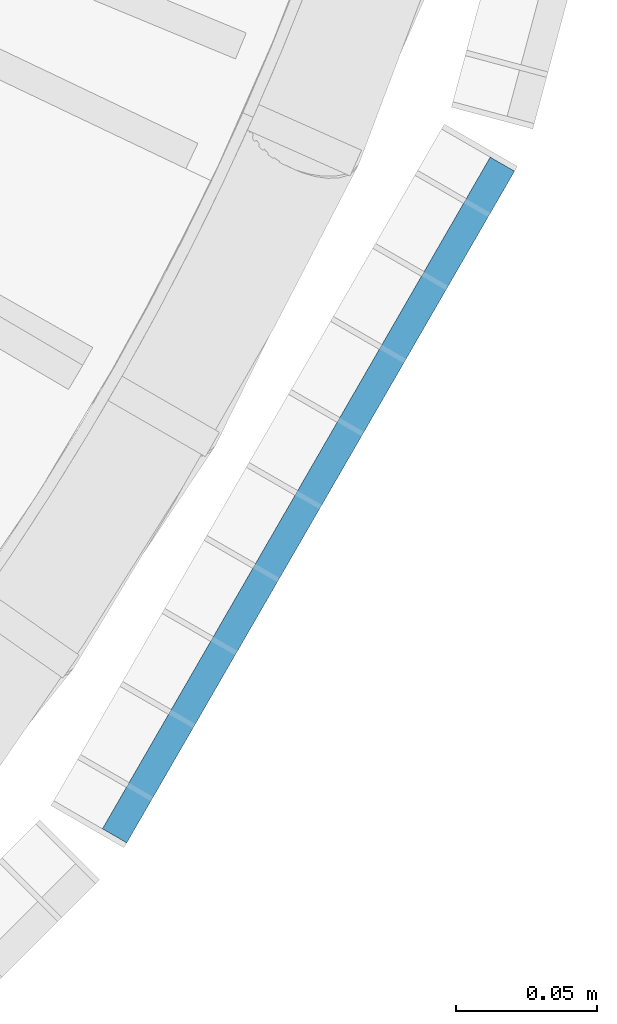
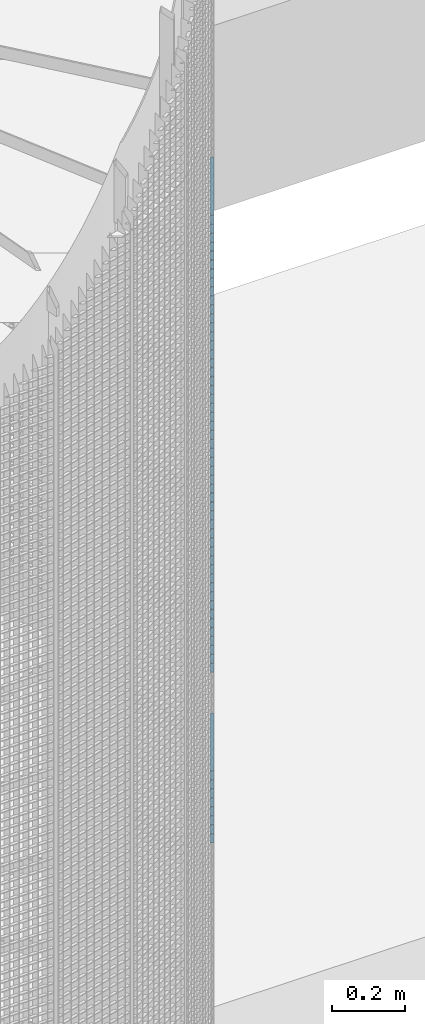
# One storey, part 235 of 1148: 61 beams, 1 element without a shape of its own.
"""IFC2X3 building model written with IfcOpenShell, lengths in millimetres."""

from ifc_helpers import new_model, si_unit, frame, origin_with_axes, origin_2d_with_axis, place, context, subcontext, project, spatial, rectangle, extrude, material, type_object, element, aggregate, save


model = new_model("IFC2X3")

# Units and contexts
model_context = context("Model", 3, precision=1e-05, world=origin_with_axes())
body_context = subcontext(model_context, "Body", "Model", "MODEL_VIEW")
ifc_project = project(units=[si_unit("LENGTHUNIT", "METRE", prefix="MILLI"), si_unit("AREAUNIT", "SQUARE_METRE"), si_unit("VOLUMEUNIT", "CUBIC_METRE"), si_unit("MASSUNIT", "GRAM", prefix="KILO"), si_unit("TIMEUNIT", "SECOND"), si_unit("PLANEANGLEUNIT", "RADIAN"), si_unit("SOLIDANGLEUNIT", "STERADIAN"), si_unit("THERMODYNAMICTEMPERATUREUNIT", "DEGREE_CELSIUS"), si_unit("LUMINOUSINTENSITYUNIT", "LUMEN")], contexts=[model_context])

# Site, building, storey
site_placement = place(None, origin_with_axes())
site = spatial("IfcSite", under=ifc_project, at=site_placement, Name="Undefined", CompositionType="ELEMENT")
building_placement = place(site_placement, origin_with_axes())
building = spatial("IfcBuilding", under=site, at=building_placement, Name="Undefined", CompositionType="ELEMENT")
storey_placement = place(building_placement, origin_with_axes())
storey = spatial("IfcBuildingStorey", under=building, at=storey_placement, Name="Undefined", CompositionType="ELEMENT", Elevation=0.0)

# Assembly, beams
assembly_placement = place(storey_placement, origin_with_axes())
assembly = element("IfcElementAssembly", 1, at=assembly_placement, inside=storey, Name="BORDURE", AssemblyPlace="NOTDEFINED", PredefinedType="NOTDEFINED")
ifc_material = material(Name="STEEL/S235JR")
beam_type = type_object("IfcBeamType", Name="PL2*10", PredefinedType="NOTDEFINED")
beam_1_placement = place(assembly_placement, frame((895.303964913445, -676.248044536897, 11670.0), z_axis=(0.866025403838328, -0.49999999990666, 0.0), x_axis=(0.49999999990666, 0.866025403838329, 0.0)))
beam_1 = element("IfcBeam", 2, at=beam_1_placement, type_object=beam_type, material=ifc_material, Name="ENTRETOISE", context=body_context, shape_type="SweptSolid", body=[
    extrude(rectangle(XDim=2.0, YDim=10.0, at=origin_2d_with_axis()), frame((275.999999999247, 9.09494701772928e-13, 1.53210777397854e-14), z_axis=(-1.0, 0.0, 0.0), x_axis=(0.0, -1.0, 0.0)), (0.0, 0.0, 1.0), 276.0),
])
beam_2_placement = place(assembly_placement, frame((895.303964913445, -676.248044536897, 11640.0), z_axis=(0.866025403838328, -0.49999999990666, 0.0), x_axis=(0.49999999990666, 0.866025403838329, 0.0)))
beam_2 = element("IfcBeam", 3, at=beam_2_placement, type_object=beam_type, material=ifc_material, Name="ENTRETOISE", context=body_context, shape_type="SweptSolid", body=[
    extrude(rectangle(XDim=2.0, YDim=10.0, at=origin_2d_with_axis()), frame((275.999999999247, 9.09494701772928e-13, 1.53210777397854e-14), z_axis=(-1.0, 0.0, 0.0), x_axis=(0.0, -1.0, 0.0)), (0.0, 0.0, 1.0), 276.0),
])
beam_3_placement = place(assembly_placement, frame((895.303964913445, -676.248044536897, 11610.0), z_axis=(0.866025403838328, -0.49999999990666, 0.0), x_axis=(0.49999999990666, 0.866025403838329, 0.0)))
beam_3 = element("IfcBeam", 4, at=beam_3_placement, type_object=beam_type, material=ifc_material, Name="ENTRETOISE", context=body_context, shape_type="SweptSolid", body=[
    extrude(rectangle(XDim=2.0, YDim=10.0, at=origin_2d_with_axis()), frame((275.999999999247, 9.09494701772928e-13, 1.53210777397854e-14), z_axis=(-1.0, 0.0, 0.0), x_axis=(0.0, -1.0, 0.0)), (0.0, 0.0, 1.0), 276.0),
])
beam_4_placement = place(assembly_placement, frame((895.303964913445, -676.248044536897, 11580.0), z_axis=(0.866025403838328, -0.49999999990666, 0.0), x_axis=(0.49999999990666, 0.866025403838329, 0.0)))
beam_4 = element("IfcBeam", 5, at=beam_4_placement, type_object=beam_type, material=ifc_material, Name="ENTRETOISE", context=body_context, shape_type="SweptSolid", body=[
    extrude(rectangle(XDim=2.0, YDim=10.0, at=origin_2d_with_axis()), frame((275.999999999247, 9.09494701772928e-13, 1.53210777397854e-14), z_axis=(-1.0, 0.0, 0.0), x_axis=(0.0, -1.0, 0.0)), (0.0, 0.0, 1.0), 276.0),
])
beam_5_placement = place(assembly_placement, frame((895.303964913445, -676.248044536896, 11550.0), z_axis=(0.866025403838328, -0.49999999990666, 0.0), x_axis=(0.49999999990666, 0.866025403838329, 0.0)))
beam_5 = element("IfcBeam", 6, at=beam_5_placement, type_object=beam_type, material=ifc_material, Name="ENTRETOISE", context=body_context, shape_type="SweptSolid", body=[
    extrude(rectangle(XDim=2.0, YDim=10.0, at=origin_2d_with_axis()), frame((275.999999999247, 9.09494701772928e-13, 1.53210777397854e-14), z_axis=(-1.0, 0.0, 0.0), x_axis=(0.0, -1.0, 0.0)), (0.0, 0.0, 1.0), 276.0),
])
beam_6_placement = place(assembly_placement, frame((895.303964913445, -676.248044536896, 11520.0), z_axis=(0.866025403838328, -0.49999999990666, 0.0), x_axis=(0.49999999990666, 0.866025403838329, 0.0)))
beam_6 = element("IfcBeam", 7, at=beam_6_placement, type_object=beam_type, material=ifc_material, Name="ENTRETOISE", context=body_context, shape_type="SweptSolid", body=[
    extrude(rectangle(XDim=2.0, YDim=10.0, at=origin_2d_with_axis()), frame((275.999999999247, 9.09494701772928e-13, 1.53210777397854e-14), z_axis=(-1.0, 0.0, 0.0), x_axis=(0.0, -1.0, 0.0)), (0.0, 0.0, 1.0), 276.0),
])
beam_7_placement = place(assembly_placement, frame((895.303964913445, -676.248044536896, 11490.0), z_axis=(0.866025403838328, -0.49999999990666, 0.0), x_axis=(0.49999999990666, 0.866025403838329, 0.0)))
beam_7 = element("IfcBeam", 8, at=beam_7_placement, type_object=beam_type, material=ifc_material, Name="ENTRETOISE", context=body_context, shape_type="SweptSolid", body=[
    extrude(rectangle(XDim=2.0, YDim=10.0, at=origin_2d_with_axis()), frame((275.999999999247, 9.09494701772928e-13, 1.53210777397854e-14), z_axis=(-1.0, 0.0, 0.0), x_axis=(0.0, -1.0, 0.0)), (0.0, 0.0, 1.0), 276.0),
])
beam_8_placement = place(assembly_placement, frame((895.303964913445, -676.248044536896, 11460.0), z_axis=(0.866025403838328, -0.49999999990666, 0.0), x_axis=(0.49999999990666, 0.866025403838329, 0.0)))
beam_8 = element("IfcBeam", 9, at=beam_8_placement, type_object=beam_type, material=ifc_material, Name="ENTRETOISE", context=body_context, shape_type="SweptSolid", body=[
    extrude(rectangle(XDim=2.0, YDim=10.0, at=origin_2d_with_axis()), frame((275.999999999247, 9.09494701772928e-13, 1.53210777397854e-14), z_axis=(-1.0, 0.0, 0.0), x_axis=(0.0, -1.0, 0.0)), (0.0, 0.0, 1.0), 276.0),
])
beam_9_placement = place(assembly_placement, frame((895.303964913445, -676.248044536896, 11430.0), z_axis=(0.866025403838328, -0.49999999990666, 0.0), x_axis=(0.49999999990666, 0.866025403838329, 0.0)))
beam_9 = element("IfcBeam", 10, at=beam_9_placement, type_object=beam_type, material=ifc_material, Name="ENTRETOISE", context=body_context, shape_type="SweptSolid", body=[
    extrude(rectangle(XDim=2.0, YDim=10.0, at=origin_2d_with_axis()), frame((275.999999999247, 9.09494701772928e-13, 1.53210777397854e-14), z_axis=(-1.0, 0.0, 0.0), x_axis=(0.0, -1.0, 0.0)), (0.0, 0.0, 1.0), 276.0),
])
beam_10_placement = place(assembly_placement, frame((895.303964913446, -676.248044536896, 11400.0), z_axis=(0.866025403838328, -0.49999999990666, 0.0), x_axis=(0.49999999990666, 0.866025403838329, 0.0)))
beam_10 = element("IfcBeam", 11, at=beam_10_placement, type_object=beam_type, material=ifc_material, Name="ENTRETOISE", context=body_context, shape_type="SweptSolid", body=[
    extrude(rectangle(XDim=2.0, YDim=10.0, at=origin_2d_with_axis()), frame((275.999999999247, 9.09494701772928e-13, 1.53210777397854e-14), z_axis=(-1.0, 0.0, 0.0), x_axis=(0.0, -1.0, 0.0)), (0.0, 0.0, 1.0), 276.0),
])
beam_11_placement = place(assembly_placement, frame((895.303964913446, -676.248044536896, 11370.0), z_axis=(0.866025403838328, -0.49999999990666, 0.0), x_axis=(0.49999999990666, 0.866025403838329, 0.0)))
beam_11 = element("IfcBeam", 12, at=beam_11_placement, type_object=beam_type, material=ifc_material, Name="ENTRETOISE", context=body_context, shape_type="SweptSolid", body=[
    extrude(rectangle(XDim=2.0, YDim=10.0, at=origin_2d_with_axis()), frame((275.999999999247, 9.09494701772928e-13, 1.53210777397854e-14), z_axis=(-1.0, 0.0, 0.0), x_axis=(0.0, -1.0, 0.0)), (0.0, 0.0, 1.0), 276.0),
])
beam_12_placement = place(assembly_placement, frame((895.303964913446, -676.248044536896, 11340.0), z_axis=(0.866025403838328, -0.49999999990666, 0.0), x_axis=(0.49999999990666, 0.866025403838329, 0.0)))
beam_12 = element("IfcBeam", 13, at=beam_12_placement, type_object=beam_type, material=ifc_material, Name="ENTRETOISE", context=body_context, shape_type="SweptSolid", body=[
    extrude(rectangle(XDim=2.0, YDim=10.0, at=origin_2d_with_axis()), frame((275.999999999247, 9.09494701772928e-13, 1.53210777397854e-14), z_axis=(-1.0, 0.0, 0.0), x_axis=(0.0, -1.0, 0.0)), (0.0, 0.0, 1.0), 276.0),
])
beam_13_placement = place(assembly_placement, frame((895.303964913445, -676.248044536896, 11310.0), z_axis=(0.866025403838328, -0.49999999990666, 0.0), x_axis=(0.49999999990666, 0.866025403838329, 0.0)))
beam_13 = element("IfcBeam", 14, at=beam_13_placement, type_object=beam_type, material=ifc_material, Name="ENTRETOISE", context=body_context, shape_type="SweptSolid", body=[
    extrude(rectangle(XDim=2.0, YDim=10.0, at=origin_2d_with_axis()), frame((275.999999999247, 9.09494701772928e-13, 1.53210777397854e-14), z_axis=(-1.0, 0.0, 0.0), x_axis=(0.0, -1.0, 0.0)), (0.0, 0.0, 1.0), 276.0),
])
beam_14_placement = place(assembly_placement, frame((895.303964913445, -676.248044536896, 11280.0), z_axis=(0.866025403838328, -0.49999999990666, 0.0), x_axis=(0.49999999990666, 0.866025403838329, 0.0)))
beam_14 = element("IfcBeam", 15, at=beam_14_placement, type_object=beam_type, material=ifc_material, Name="ENTRETOISE", context=body_context, shape_type="SweptSolid", body=[
    extrude(rectangle(XDim=2.0, YDim=10.0, at=origin_2d_with_axis()), frame((275.999999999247, 9.09494701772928e-13, 1.53210777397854e-14), z_axis=(-1.0, 0.0, 0.0), x_axis=(0.0, -1.0, 0.0)), (0.0, 0.0, 1.0), 276.0),
])
beam_15_placement = place(assembly_placement, frame((895.303964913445, -676.248044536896, 11250.0), z_axis=(0.866025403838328, -0.49999999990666, 0.0), x_axis=(0.49999999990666, 0.866025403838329, 0.0)))
beam_15 = element("IfcBeam", 16, at=beam_15_placement, type_object=beam_type, material=ifc_material, Name="ENTRETOISE", context=body_context, shape_type="SweptSolid", body=[
    extrude(rectangle(XDim=2.0, YDim=10.0, at=origin_2d_with_axis()), frame((275.999999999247, 9.09494701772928e-13, 1.53210777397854e-14), z_axis=(-1.0, 0.0, 0.0), x_axis=(0.0, -1.0, 0.0)), (0.0, 0.0, 1.0), 276.0),
])
beam_16_placement = place(assembly_placement, frame((895.303964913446, -676.248044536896, 11220.0), z_axis=(0.866025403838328, -0.49999999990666, 0.0), x_axis=(0.49999999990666, 0.866025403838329, 0.0)))
beam_16 = element("IfcBeam", 17, at=beam_16_placement, type_object=beam_type, material=ifc_material, Name="ENTRETOISE", context=body_context, shape_type="SweptSolid", body=[
    extrude(rectangle(XDim=2.0, YDim=10.0, at=origin_2d_with_axis()), frame((275.999999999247, 9.09494701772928e-13, 1.53210777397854e-14), z_axis=(-1.0, 0.0, 0.0), x_axis=(0.0, -1.0, 0.0)), (0.0, 0.0, 1.0), 276.0),
])
beam_17_placement = place(assembly_placement, frame((895.303964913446, -676.248044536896, 11190.0), z_axis=(0.866025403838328, -0.49999999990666, 0.0), x_axis=(0.49999999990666, 0.866025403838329, 0.0)))
beam_17 = element("IfcBeam", 18, at=beam_17_placement, type_object=beam_type, material=ifc_material, Name="ENTRETOISE", context=body_context, shape_type="SweptSolid", body=[
    extrude(rectangle(XDim=2.0, YDim=10.0, at=origin_2d_with_axis()), frame((275.999999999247, 9.09494701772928e-13, 1.53210777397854e-14), z_axis=(-1.0, 0.0, 0.0), x_axis=(0.0, -1.0, 0.0)), (0.0, 0.0, 1.0), 276.0),
])
beam_18_placement = place(assembly_placement, frame((895.303964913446, -676.248044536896, 11160.0), z_axis=(0.866025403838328, -0.49999999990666, 0.0), x_axis=(0.49999999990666, 0.866025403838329, 0.0)))
beam_18 = element("IfcBeam", 19, at=beam_18_placement, type_object=beam_type, material=ifc_material, Name="ENTRETOISE", context=body_context, shape_type="SweptSolid", body=[
    extrude(rectangle(XDim=2.0, YDim=10.0, at=origin_2d_with_axis()), frame((275.999999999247, 9.09494701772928e-13, 1.53210777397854e-14), z_axis=(-1.0, 0.0, 0.0), x_axis=(0.0, -1.0, 0.0)), (0.0, 0.0, 1.0), 276.0),
])
beam_19_placement = place(assembly_placement, frame((895.303964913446, -676.248044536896, 11130.0), z_axis=(0.866025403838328, -0.49999999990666, 0.0), x_axis=(0.49999999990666, 0.866025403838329, 0.0)))
beam_19 = element("IfcBeam", 20, at=beam_19_placement, type_object=beam_type, material=ifc_material, Name="ENTRETOISE", context=body_context, shape_type="SweptSolid", body=[
    extrude(rectangle(XDim=2.0, YDim=10.0, at=origin_2d_with_axis()), frame((275.999999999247, 9.09494701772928e-13, 1.53210777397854e-14), z_axis=(-1.0, 0.0, 0.0), x_axis=(0.0, -1.0, 0.0)), (0.0, 0.0, 1.0), 276.0),
])
beam_20_placement = place(assembly_placement, frame((895.303964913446, -676.248044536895, 11100.0), z_axis=(0.866025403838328, -0.49999999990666, 0.0), x_axis=(0.49999999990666, 0.866025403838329, 0.0)))
beam_20 = element("IfcBeam", 21, at=beam_20_placement, type_object=beam_type, material=ifc_material, Name="ENTRETOISE", context=body_context, shape_type="SweptSolid", body=[
    extrude(rectangle(XDim=2.0, YDim=10.0, at=origin_2d_with_axis()), frame((275.999999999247, 9.09494701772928e-13, 1.53210777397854e-14), z_axis=(-1.0, 0.0, 0.0), x_axis=(0.0, -1.0, 0.0)), (0.0, 0.0, 1.0), 276.0),
])
beam_21_placement = place(assembly_placement, frame((895.303964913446, -676.248044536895, 11070.0), z_axis=(0.866025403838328, -0.49999999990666, 0.0), x_axis=(0.49999999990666, 0.866025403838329, 0.0)))
beam_21 = element("IfcBeam", 22, at=beam_21_placement, type_object=beam_type, material=ifc_material, Name="ENTRETOISE", context=body_context, shape_type="SweptSolid", body=[
    extrude(rectangle(XDim=2.0, YDim=10.0, at=origin_2d_with_axis()), frame((275.999999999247, 9.09494701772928e-13, 1.53210777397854e-14), z_axis=(-1.0, 0.0, 0.0), x_axis=(0.0, -1.0, 0.0)), (0.0, 0.0, 1.0), 276.0),
])
beam_22_placement = place(assembly_placement, frame((895.303964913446, -676.248044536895, 11040.0), z_axis=(0.866025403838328, -0.49999999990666, 0.0), x_axis=(0.49999999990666, 0.866025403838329, 0.0)))
beam_22 = element("IfcBeam", 23, at=beam_22_placement, type_object=beam_type, material=ifc_material, Name="ENTRETOISE", context=body_context, shape_type="SweptSolid", body=[
    extrude(rectangle(XDim=2.0, YDim=10.0, at=origin_2d_with_axis()), frame((275.999999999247, 9.09494701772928e-13, 1.53210777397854e-14), z_axis=(-1.0, 0.0, 0.0), x_axis=(0.0, -1.0, 0.0)), (0.0, 0.0, 1.0), 276.0),
])
beam_23_placement = place(assembly_placement, frame((895.303964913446, -676.248044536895, 11010.0), z_axis=(0.866025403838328, -0.49999999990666, 0.0), x_axis=(0.49999999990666, 0.866025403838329, 0.0)))
beam_23 = element("IfcBeam", 24, at=beam_23_placement, type_object=beam_type, material=ifc_material, Name="ENTRETOISE", context=body_context, shape_type="SweptSolid", body=[
    extrude(rectangle(XDim=2.0, YDim=10.0, at=origin_2d_with_axis()), frame((275.999999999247, 9.09494701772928e-13, 1.53210777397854e-14), z_axis=(-1.0, 0.0, 0.0), x_axis=(0.0, -1.0, 0.0)), (0.0, 0.0, 1.0), 276.0),
])
beam_24_placement = place(assembly_placement, frame((895.303964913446, -676.248044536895, 10980.0), z_axis=(0.866025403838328, -0.49999999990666, 0.0), x_axis=(0.49999999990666, 0.866025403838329, 0.0)))
beam_24 = element("IfcBeam", 25, at=beam_24_placement, type_object=beam_type, material=ifc_material, Name="ENTRETOISE", context=body_context, shape_type="SweptSolid", body=[
    extrude(rectangle(XDim=2.0, YDim=10.0, at=origin_2d_with_axis()), frame((275.999999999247, 9.09494701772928e-13, 1.53210777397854e-14), z_axis=(-1.0, 0.0, 0.0), x_axis=(0.0, -1.0, 0.0)), (0.0, 0.0, 1.0), 276.0),
])
beam_25_placement = place(assembly_placement, frame((895.303964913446, -676.248044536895, 10950.0), z_axis=(0.866025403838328, -0.49999999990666, 0.0), x_axis=(0.49999999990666, 0.866025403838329, 0.0)))
beam_25 = element("IfcBeam", 26, at=beam_25_placement, type_object=beam_type, material=ifc_material, Name="ENTRETOISE", context=body_context, shape_type="SweptSolid", body=[
    extrude(rectangle(XDim=2.0, YDim=10.0, at=origin_2d_with_axis()), frame((275.999999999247, 9.09494701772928e-13, 1.53210777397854e-14), z_axis=(-1.0, 0.0, 0.0), x_axis=(0.0, -1.0, 0.0)), (0.0, 0.0, 1.0), 276.0),
])
beam_26_placement = place(assembly_placement, frame((895.303964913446, -676.248044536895, 10920.0), z_axis=(0.866025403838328, -0.49999999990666, 0.0), x_axis=(0.49999999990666, 0.866025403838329, 0.0)))
beam_26 = element("IfcBeam", 27, at=beam_26_placement, type_object=beam_type, material=ifc_material, Name="ENTRETOISE", context=body_context, shape_type="SweptSolid", body=[
    extrude(rectangle(XDim=2.0, YDim=10.0, at=origin_2d_with_axis()), frame((275.999999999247, 9.09494701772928e-13, 1.53210777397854e-14), z_axis=(-1.0, 0.0, 0.0), x_axis=(0.0, -1.0, 0.0)), (0.0, 0.0, 1.0), 276.0),
])
beam_27_placement = place(assembly_placement, frame((895.303964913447, -676.248044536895, 10890.0), z_axis=(0.866025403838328, -0.49999999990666, 0.0), x_axis=(0.49999999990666, 0.866025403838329, 0.0)))
beam_27 = element("IfcBeam", 28, at=beam_27_placement, type_object=beam_type, material=ifc_material, Name="ENTRETOISE", context=body_context, shape_type="SweptSolid", body=[
    extrude(rectangle(XDim=2.0, YDim=10.0, at=origin_2d_with_axis()), frame((275.999999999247, 9.09494701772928e-13, 1.53210777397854e-14), z_axis=(-1.0, 0.0, 0.0), x_axis=(0.0, -1.0, 0.0)), (0.0, 0.0, 1.0), 276.0),
])
beam_28_placement = place(assembly_placement, frame((895.303964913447, -676.248044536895, 10860.0), z_axis=(0.866025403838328, -0.49999999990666, 0.0), x_axis=(0.49999999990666, 0.866025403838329, 0.0)))
beam_28 = element("IfcBeam", 29, at=beam_28_placement, type_object=beam_type, material=ifc_material, Name="ENTRETOISE", context=body_context, shape_type="SweptSolid", body=[
    extrude(rectangle(XDim=2.0, YDim=10.0, at=origin_2d_with_axis()), frame((275.999999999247, 9.09494701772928e-13, 1.53210777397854e-14), z_axis=(-1.0, 0.0, 0.0), x_axis=(0.0, -1.0, 0.0)), (0.0, 0.0, 1.0), 276.0),
])
beam_29_placement = place(assembly_placement, frame((895.303964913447, -676.248044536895, 10830.0), z_axis=(0.866025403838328, -0.49999999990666, 0.0), x_axis=(0.49999999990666, 0.866025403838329, 0.0)))
beam_29 = element("IfcBeam", 30, at=beam_29_placement, type_object=beam_type, material=ifc_material, Name="ENTRETOISE", context=body_context, shape_type="SweptSolid", body=[
    extrude(rectangle(XDim=2.0, YDim=10.0, at=origin_2d_with_axis()), frame((275.999999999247, 9.09494701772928e-13, 1.53210777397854e-14), z_axis=(-1.0, 0.0, 0.0), x_axis=(0.0, -1.0, 0.0)), (0.0, 0.0, 1.0), 276.0),
])
beam_30_placement = place(assembly_placement, frame((895.303964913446, -676.248044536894, 10800.0), z_axis=(0.866025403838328, -0.49999999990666, 0.0), x_axis=(0.49999999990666, 0.866025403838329, 0.0)))
beam_30 = element("IfcBeam", 31, at=beam_30_placement, type_object=beam_type, material=ifc_material, Name="ENTRETOISE", context=body_context, shape_type="SweptSolid", body=[
    extrude(rectangle(XDim=2.0, YDim=10.0, at=origin_2d_with_axis()), frame((275.999999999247, 9.09494701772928e-13, 1.53210777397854e-14), z_axis=(-1.0, 0.0, 0.0), x_axis=(0.0, -1.0, 0.0)), (0.0, 0.0, 1.0), 276.0),
])
beam_31_placement = place(assembly_placement, frame((895.303964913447, -676.248044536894, 10770.0), z_axis=(0.866025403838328, -0.49999999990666, 0.0), x_axis=(0.49999999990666, 0.866025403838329, 0.0)))
beam_31 = element("IfcBeam", 32, at=beam_31_placement, type_object=beam_type, material=ifc_material, Name="ENTRETOISE", context=body_context, shape_type="SweptSolid", body=[
    extrude(rectangle(XDim=2.0, YDim=10.0, at=origin_2d_with_axis()), frame((275.999999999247, 9.09494701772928e-13, 1.53210777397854e-14), z_axis=(-1.0, 0.0, 0.0), x_axis=(0.0, -1.0, 0.0)), (0.0, 0.0, 1.0), 276.0),
])
beam_32_placement = place(assembly_placement, frame((895.303964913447, -676.248044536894, 10740.0), z_axis=(0.866025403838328, -0.49999999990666, 0.0), x_axis=(0.49999999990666, 0.866025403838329, 0.0)))
beam_32 = element("IfcBeam", 33, at=beam_32_placement, type_object=beam_type, material=ifc_material, Name="ENTRETOISE", context=body_context, shape_type="SweptSolid", body=[
    extrude(rectangle(XDim=2.0, YDim=10.0, at=origin_2d_with_axis()), frame((275.999999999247, 9.09494701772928e-13, 1.53210777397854e-14), z_axis=(-1.0, 0.0, 0.0), x_axis=(0.0, -1.0, 0.0)), (0.0, 0.0, 1.0), 276.0),
])
beam_33_placement = place(assembly_placement, frame((895.303964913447, -676.248044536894, 10710.0), z_axis=(0.866025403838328, -0.49999999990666, 0.0), x_axis=(0.49999999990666, 0.866025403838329, 0.0)))
beam_33 = element("IfcBeam", 34, at=beam_33_placement, type_object=beam_type, material=ifc_material, Name="ENTRETOISE", context=body_context, shape_type="SweptSolid", body=[
    extrude(rectangle(XDim=2.0, YDim=10.0, at=origin_2d_with_axis()), frame((275.999999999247, 9.09494701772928e-13, 1.53210777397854e-14), z_axis=(-1.0, 0.0, 0.0), x_axis=(0.0, -1.0, 0.0)), (0.0, 0.0, 1.0), 276.0),
])
beam_34_placement = place(assembly_placement, frame((895.303964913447, -676.248044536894, 10680.0), z_axis=(0.866025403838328, -0.49999999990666, 0.0), x_axis=(0.49999999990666, 0.866025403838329, 0.0)))
beam_34 = element("IfcBeam", 35, at=beam_34_placement, type_object=beam_type, material=ifc_material, Name="ENTRETOISE", context=body_context, shape_type="SweptSolid", body=[
    extrude(rectangle(XDim=2.0, YDim=10.0, at=origin_2d_with_axis()), frame((275.999999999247, 9.09494701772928e-13, 1.53210777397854e-14), z_axis=(-1.0, 0.0, 0.0), x_axis=(0.0, -1.0, 0.0)), (0.0, 0.0, 1.0), 276.0),
])
beam_35_placement = place(assembly_placement, frame((895.303964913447, -676.248044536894, 10650.0), z_axis=(0.866025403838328, -0.49999999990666, 0.0), x_axis=(0.49999999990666, 0.866025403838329, 0.0)))
beam_35 = element("IfcBeam", 36, at=beam_35_placement, type_object=beam_type, material=ifc_material, Name="ENTRETOISE", context=body_context, shape_type="SweptSolid", body=[
    extrude(rectangle(XDim=2.0, YDim=10.0, at=origin_2d_with_axis()), frame((275.999999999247, 9.09494701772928e-13, 1.53210777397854e-14), z_axis=(-1.0, 0.0, 0.0), x_axis=(0.0, -1.0, 0.0)), (0.0, 0.0, 1.0), 276.0),
])
beam_36_placement = place(assembly_placement, frame((895.303964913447, -676.248044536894, 10620.0), z_axis=(0.866025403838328, -0.49999999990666, 0.0), x_axis=(0.49999999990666, 0.866025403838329, 0.0)))
beam_36 = element("IfcBeam", 37, at=beam_36_placement, type_object=beam_type, material=ifc_material, Name="ENTRETOISE", context=body_context, shape_type="SweptSolid", body=[
    extrude(rectangle(XDim=2.0, YDim=10.0, at=origin_2d_with_axis()), frame((275.999999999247, 9.09494701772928e-13, 1.53210777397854e-14), z_axis=(-1.0, 0.0, 0.0), x_axis=(0.0, -1.0, 0.0)), (0.0, 0.0, 1.0), 276.0),
])
beam_37_placement = place(assembly_placement, frame((895.303964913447, -676.248044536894, 10590.0), z_axis=(0.866025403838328, -0.49999999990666, 0.0), x_axis=(0.49999999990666, 0.866025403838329, 0.0)))
beam_37 = element("IfcBeam", 38, at=beam_37_placement, type_object=beam_type, material=ifc_material, Name="ENTRETOISE", context=body_context, shape_type="SweptSolid", body=[
    extrude(rectangle(XDim=2.0, YDim=10.0, at=origin_2d_with_axis()), frame((275.999999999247, 9.09494701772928e-13, 1.53210777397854e-14), z_axis=(-1.0, 0.0, 0.0), x_axis=(0.0, -1.0, 0.0)), (0.0, 0.0, 1.0), 276.0),
])
beam_38_placement = place(assembly_placement, frame((895.303964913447, -676.248044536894, 10560.0), z_axis=(0.866025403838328, -0.49999999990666, 0.0), x_axis=(0.49999999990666, 0.866025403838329, 0.0)))
beam_38 = element("IfcBeam", 39, at=beam_38_placement, type_object=beam_type, material=ifc_material, Name="ENTRETOISE", context=body_context, shape_type="SweptSolid", body=[
    extrude(rectangle(XDim=2.0, YDim=10.0, at=origin_2d_with_axis()), frame((275.999999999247, 9.09494701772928e-13, 1.53210777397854e-14), z_axis=(-1.0, 0.0, 0.0), x_axis=(0.0, -1.0, 0.0)), (0.0, 0.0, 1.0), 276.0),
])
beam_39_placement = place(assembly_placement, frame((895.303964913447, -676.248044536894, 10530.0), z_axis=(0.866025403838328, -0.49999999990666, 0.0), x_axis=(0.49999999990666, 0.866025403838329, 0.0)))
beam_39 = element("IfcBeam", 40, at=beam_39_placement, type_object=beam_type, material=ifc_material, Name="ENTRETOISE", context=body_context, shape_type="SweptSolid", body=[
    extrude(rectangle(XDim=2.0, YDim=10.0, at=origin_2d_with_axis()), frame((275.999999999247, 9.09494701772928e-13, 1.53210777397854e-14), z_axis=(-1.0, 0.0, 0.0), x_axis=(0.0, -1.0, 0.0)), (0.0, 0.0, 1.0), 276.0),
])
beam_40_placement = place(assembly_placement, frame((895.303964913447, -676.248044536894, 10500.0), z_axis=(0.866025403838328, -0.49999999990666, 0.0), x_axis=(0.49999999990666, 0.866025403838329, 0.0)))
beam_40 = element("IfcBeam", 41, at=beam_40_placement, type_object=beam_type, material=ifc_material, Name="ENTRETOISE", context=body_context, shape_type="SweptSolid", body=[
    extrude(rectangle(XDim=2.0, YDim=10.0, at=origin_2d_with_axis()), frame((275.999999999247, 9.09494701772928e-13, 1.53210777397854e-14), z_axis=(-1.0, 0.0, 0.0), x_axis=(0.0, -1.0, 0.0)), (0.0, 0.0, 1.0), 276.0),
])
beam_41_placement = place(assembly_placement, frame((895.303964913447, -676.248044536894, 10470.0), z_axis=(0.866025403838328, -0.49999999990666, 0.0), x_axis=(0.49999999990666, 0.866025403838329, 0.0)))
beam_41 = element("IfcBeam", 42, at=beam_41_placement, type_object=beam_type, material=ifc_material, Name="ENTRETOISE", context=body_context, shape_type="SweptSolid", body=[
    extrude(rectangle(XDim=2.0, YDim=10.0, at=origin_2d_with_axis()), frame((275.999999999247, 9.09494701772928e-13, 1.53210777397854e-14), z_axis=(-1.0, 0.0, 0.0), x_axis=(0.0, -1.0, 0.0)), (0.0, 0.0, 1.0), 276.0),
])
beam_42_placement = place(assembly_placement, frame((895.303964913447, -676.248044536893, 10440.0), z_axis=(0.866025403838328, -0.49999999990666, 0.0), x_axis=(0.49999999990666, 0.866025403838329, 0.0)))
beam_42 = element("IfcBeam", 43, at=beam_42_placement, type_object=beam_type, material=ifc_material, Name="ENTRETOISE", context=body_context, shape_type="SweptSolid", body=[
    extrude(rectangle(XDim=2.0, YDim=10.0, at=origin_2d_with_axis()), frame((275.999999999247, 9.09494701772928e-13, 1.53210777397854e-14), z_axis=(-1.0, 0.0, 0.0), x_axis=(0.0, -1.0, 0.0)), (0.0, 0.0, 1.0), 276.0),
])
beam_43_placement = place(assembly_placement, frame((895.303964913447, -676.248044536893, 10410.0), z_axis=(0.866025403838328, -0.49999999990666, 0.0), x_axis=(0.49999999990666, 0.866025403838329, 0.0)))
beam_43 = element("IfcBeam", 44, at=beam_43_placement, type_object=beam_type, material=ifc_material, Name="ENTRETOISE", context=body_context, shape_type="SweptSolid", body=[
    extrude(rectangle(XDim=2.0, YDim=10.0, at=origin_2d_with_axis()), frame((275.999999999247, 9.09494701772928e-13, 1.53210777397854e-14), z_axis=(-1.0, 0.0, 0.0), x_axis=(0.0, -1.0, 0.0)), (0.0, 0.0, 1.0), 276.0),
])
beam_44_placement = place(assembly_placement, frame((895.303964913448, -676.248044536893, 10380.0), z_axis=(0.866025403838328, -0.49999999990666, 0.0), x_axis=(0.49999999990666, 0.866025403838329, 0.0)))
beam_44 = element("IfcBeam", 45, at=beam_44_placement, type_object=beam_type, material=ifc_material, Name="ENTRETOISE", context=body_context, shape_type="SweptSolid", body=[
    extrude(rectangle(XDim=2.0, YDim=10.0, at=origin_2d_with_axis()), frame((275.999999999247, 9.09494701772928e-13, 1.53210777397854e-14), z_axis=(-1.0, 0.0, 0.0), x_axis=(0.0, -1.0, 0.0)), (0.0, 0.0, 1.0), 276.0),
])
beam_45_placement = place(assembly_placement, frame((895.303964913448, -676.248044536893, 10350.0), z_axis=(0.866025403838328, -0.49999999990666, 0.0), x_axis=(0.49999999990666, 0.866025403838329, 0.0)))
beam_45 = element("IfcBeam", 46, at=beam_45_placement, type_object=beam_type, material=ifc_material, Name="ENTRETOISE", context=body_context, shape_type="SweptSolid", body=[
    extrude(rectangle(XDim=2.0, YDim=10.0, at=origin_2d_with_axis()), frame((275.999999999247, 9.09494701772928e-13, 1.53210777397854e-14), z_axis=(-1.0, 0.0, 0.0), x_axis=(0.0, -1.0, 0.0)), (0.0, 0.0, 1.0), 276.0),
])
beam_46_placement = place(assembly_placement, frame((895.303964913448, -676.248044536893, 10320.0), z_axis=(0.866025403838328, -0.49999999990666, 0.0), x_axis=(0.49999999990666, 0.866025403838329, 0.0)))
beam_46 = element("IfcBeam", 47, at=beam_46_placement, type_object=beam_type, material=ifc_material, Name="ENTRETOISE", context=body_context, shape_type="SweptSolid", body=[
    extrude(rectangle(XDim=2.0, YDim=10.0, at=origin_2d_with_axis()), frame((275.999999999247, 9.09494701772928e-13, 1.53210777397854e-14), z_axis=(-1.0, 0.0, 0.0), x_axis=(0.0, -1.0, 0.0)), (0.0, 0.0, 1.0), 276.0),
])
beam_47_placement = place(assembly_placement, frame((895.303964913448, -676.248044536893, 10290.0), z_axis=(0.866025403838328, -0.49999999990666, 0.0), x_axis=(0.49999999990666, 0.866025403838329, 0.0)))
beam_47 = element("IfcBeam", 48, at=beam_47_placement, type_object=beam_type, material=ifc_material, Name="ENTRETOISE", context=body_context, shape_type="SweptSolid", body=[
    extrude(rectangle(XDim=2.0, YDim=10.0, at=origin_2d_with_axis()), frame((275.999999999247, 9.09494701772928e-13, 1.53210777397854e-14), z_axis=(-1.0, 0.0, 0.0), x_axis=(0.0, -1.0, 0.0)), (0.0, 0.0, 1.0), 276.0),
])
beam_48_placement = place(assembly_placement, frame((895.303964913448, -676.248044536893, 10260.0), z_axis=(0.866025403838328, -0.49999999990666, 0.0), x_axis=(0.49999999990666, 0.866025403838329, 0.0)))
beam_48 = element("IfcBeam", 49, at=beam_48_placement, type_object=beam_type, material=ifc_material, Name="ENTRETOISE", context=body_context, shape_type="SweptSolid", body=[
    extrude(rectangle(XDim=2.0, YDim=10.0, at=origin_2d_with_axis()), frame((275.999999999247, 9.09494701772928e-13, 1.53210777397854e-14), z_axis=(-1.0, 0.0, 0.0), x_axis=(0.0, -1.0, 0.0)), (0.0, 0.0, 1.0), 276.0),
])
beam_49_placement = place(assembly_placement, frame((895.303964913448, -676.248044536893, 10230.0), z_axis=(0.866025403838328, -0.49999999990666, 0.0), x_axis=(0.49999999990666, 0.866025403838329, 0.0)))
beam_49 = element("IfcBeam", 50, at=beam_49_placement, type_object=beam_type, material=ifc_material, Name="ENTRETOISE", context=body_context, shape_type="SweptSolid", body=[
    extrude(rectangle(XDim=2.0, YDim=10.0, at=origin_2d_with_axis()), frame((275.999999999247, 9.09494701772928e-13, 1.53210777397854e-14), z_axis=(-1.0, 0.0, 0.0), x_axis=(0.0, -1.0, 0.0)), (0.0, 0.0, 1.0), 276.0),
])
beam_50_placement = place(assembly_placement, frame((895.303964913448, -676.248044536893, 10200.0), z_axis=(0.866025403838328, -0.49999999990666, 0.0), x_axis=(0.49999999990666, 0.866025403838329, 0.0)))
beam_50 = element("IfcBeam", 51, at=beam_50_placement, type_object=beam_type, material=ifc_material, Name="ENTRETOISE", context=body_context, shape_type="SweptSolid", body=[
    extrude(rectangle(XDim=2.0, YDim=10.0, at=origin_2d_with_axis()), frame((275.999999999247, 9.09494701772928e-13, 1.53210777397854e-14), z_axis=(-1.0, 0.0, 0.0), x_axis=(0.0, -1.0, 0.0)), (0.0, 0.0, 1.0), 276.0),
])
beam_51_placement = place(assembly_placement, frame((895.303964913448, -676.248044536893, 10170.0), z_axis=(0.866025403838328, -0.49999999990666, 0.0), x_axis=(0.49999999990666, 0.866025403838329, 0.0)))
beam_51 = element("IfcBeam", 52, at=beam_51_placement, type_object=beam_type, material=ifc_material, Name="ENTRETOISE", context=body_context, shape_type="SweptSolid", body=[
    extrude(rectangle(XDim=2.0, YDim=10.0, at=origin_2d_with_axis()), frame((275.999999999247, 9.09494701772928e-13, 1.53210777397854e-14), z_axis=(-1.0, 0.0, 0.0), x_axis=(0.0, -1.0, 0.0)), (0.0, 0.0, 1.0), 276.0),
])
beam_52_placement = place(assembly_placement, frame((895.303964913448, -676.248044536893, 10140.0), z_axis=(0.866025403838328, -0.49999999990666, 0.0), x_axis=(0.49999999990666, 0.866025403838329, 0.0)))
beam_52 = element("IfcBeam", 53, at=beam_52_placement, type_object=beam_type, material=ifc_material, Name="ENTRETOISE", context=body_context, shape_type="SweptSolid", body=[
    extrude(rectangle(XDim=2.0, YDim=10.0, at=origin_2d_with_axis()), frame((275.999999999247, 9.09494701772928e-13, 1.53210777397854e-14), z_axis=(-1.0, 0.0, 0.0), x_axis=(0.0, -1.0, 0.0)), (0.0, 0.0, 1.0), 276.0),
])
beam_53_placement = place(assembly_placement, frame((895.303964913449, -676.248044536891, 9720.0), z_axis=(0.866025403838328, -0.49999999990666, 0.0), x_axis=(0.49999999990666, 0.866025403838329, 0.0)))
beam_53 = element("IfcBeam", 54, at=beam_53_placement, type_object=beam_type, material=ifc_material, Name="ENTRETOISE", context=body_context, shape_type="SweptSolid", body=[
    extrude(rectangle(XDim=2.0, YDim=10.0, at=origin_2d_with_axis()), frame((275.999999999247, 9.09494701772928e-13, 1.53210777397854e-14), z_axis=(-1.0, 0.0, 0.0), x_axis=(0.0, -1.0, 0.0)), (0.0, 0.0, 1.0), 276.0),
])
beam_54_placement = place(assembly_placement, frame((895.303964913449, -676.248044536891, 9690.0), z_axis=(0.866025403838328, -0.49999999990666, 0.0), x_axis=(0.49999999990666, 0.866025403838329, 0.0)))
beam_54 = element("IfcBeam", 55, at=beam_54_placement, type_object=beam_type, material=ifc_material, Name="ENTRETOISE", context=body_context, shape_type="SweptSolid", body=[
    extrude(rectangle(XDim=2.0, YDim=10.0, at=origin_2d_with_axis()), frame((275.999999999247, 9.09494701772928e-13, 1.53210777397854e-14), z_axis=(-1.0, 0.0, 0.0), x_axis=(0.0, -1.0, 0.0)), (0.0, 0.0, 1.0), 276.0),
])
beam_55_placement = place(assembly_placement, frame((895.303964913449, -676.248044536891, 9750.0), z_axis=(0.866025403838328, -0.49999999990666, 0.0), x_axis=(0.49999999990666, 0.866025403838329, 0.0)))
beam_55 = element("IfcBeam", 56, at=beam_55_placement, type_object=beam_type, material=ifc_material, Name="ENTRETOISE", context=body_context, shape_type="SweptSolid", body=[
    extrude(rectangle(XDim=2.0, YDim=10.0, at=origin_2d_with_axis()), frame((275.999999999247, 9.09494701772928e-13, 1.53210777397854e-14), z_axis=(-1.0, 0.0, 0.0), x_axis=(0.0, -1.0, 0.0)), (0.0, 0.0, 1.0), 276.0),
])
beam_56_placement = place(assembly_placement, frame((895.303964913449, -676.248044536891, 9660.0), z_axis=(0.866025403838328, -0.49999999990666, 0.0), x_axis=(0.49999999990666, 0.866025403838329, 0.0)))
beam_56 = element("IfcBeam", 57, at=beam_56_placement, type_object=beam_type, material=ifc_material, Name="ENTRETOISE", context=body_context, shape_type="SweptSolid", body=[
    extrude(rectangle(XDim=2.0, YDim=10.0, at=origin_2d_with_axis()), frame((275.999999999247, 9.09494701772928e-13, 1.53210777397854e-14), z_axis=(-1.0, 0.0, 0.0), x_axis=(0.0, -1.0, 0.0)), (0.0, 0.0, 1.0), 276.0),
])
beam_57_placement = place(assembly_placement, frame((895.303964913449, -676.248044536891, 9630.0), z_axis=(0.866025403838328, -0.49999999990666, 0.0), x_axis=(0.49999999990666, 0.866025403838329, 0.0)))
beam_57 = element("IfcBeam", 58, at=beam_57_placement, type_object=beam_type, material=ifc_material, Name="ENTRETOISE", context=body_context, shape_type="SweptSolid", body=[
    extrude(rectangle(XDim=2.0, YDim=10.0, at=origin_2d_with_axis()), frame((275.999999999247, 9.09494701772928e-13, 1.53210777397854e-14), z_axis=(-1.0, 0.0, 0.0), x_axis=(0.0, -1.0, 0.0)), (0.0, 0.0, 1.0), 276.0),
])
beam_58_placement = place(assembly_placement, frame((895.303964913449, -676.248044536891, 9780.0), z_axis=(0.866025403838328, -0.49999999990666, 0.0), x_axis=(0.49999999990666, 0.866025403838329, 0.0)))
beam_58 = element("IfcBeam", 59, at=beam_58_placement, type_object=beam_type, material=ifc_material, Name="ENTRETOISE", context=body_context, shape_type="SweptSolid", body=[
    extrude(rectangle(XDim=2.0, YDim=10.0, at=origin_2d_with_axis()), frame((275.999999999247, 9.09494701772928e-13, 1.53210777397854e-14), z_axis=(-1.0, 0.0, 0.0), x_axis=(0.0, -1.0, 0.0)), (0.0, 0.0, 1.0), 276.0),
])
beam_59_placement = place(assembly_placement, frame((895.303964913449, -676.248044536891, 9600.0), z_axis=(0.866025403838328, -0.49999999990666, 0.0), x_axis=(0.49999999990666, 0.866025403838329, 0.0)))
beam_59 = element("IfcBeam", 60, at=beam_59_placement, type_object=beam_type, material=ifc_material, Name="ENTRETOISE", context=body_context, shape_type="SweptSolid", body=[
    extrude(rectangle(XDim=2.0, YDim=10.0, at=origin_2d_with_axis()), frame((275.999999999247, 9.09494701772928e-13, 1.53210777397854e-14), z_axis=(-1.0, 0.0, 0.0), x_axis=(0.0, -1.0, 0.0)), (0.0, 0.0, 1.0), 276.0),
])
beam_60_placement = place(assembly_placement, frame((895.303964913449, -676.248044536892, 9810.0), z_axis=(0.866025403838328, -0.49999999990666, 0.0), x_axis=(0.49999999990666, 0.866025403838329, 0.0)))
beam_60 = element("IfcBeam", 61, at=beam_60_placement, type_object=beam_type, material=ifc_material, Name="ENTRETOISE", context=body_context, shape_type="SweptSolid", body=[
    extrude(rectangle(XDim=2.0, YDim=10.0, at=origin_2d_with_axis()), frame((275.999999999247, 9.09494701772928e-13, 1.53210777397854e-14), z_axis=(-1.0, 0.0, 0.0), x_axis=(0.0, -1.0, 0.0)), (0.0, 0.0, 1.0), 276.0),
])
beam_61_placement = place(assembly_placement, frame((895.30396491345, -676.248044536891, 9570.0), z_axis=(0.866025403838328, -0.49999999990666, 0.0), x_axis=(0.49999999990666, 0.866025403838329, 0.0)))
beam_61 = element("IfcBeam", 62, at=beam_61_placement, type_object=beam_type, material=ifc_material, Name="ENTRETOISE", context=body_context, shape_type="SweptSolid", body=[
    extrude(rectangle(XDim=2.0, YDim=10.0, at=origin_2d_with_axis()), frame((275.999999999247, 9.09494701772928e-13, 1.53210777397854e-14), z_axis=(-1.0, 0.0, 0.0), x_axis=(0.0, -1.0, 0.0)), (0.0, 0.0, 1.0), 276.0),
])
aggregate(assembly, [beam_1, beam_2, beam_3, beam_4, beam_5, beam_6, beam_7, beam_8, beam_9, beam_10, beam_11, beam_12, beam_13, beam_14, beam_15, beam_16, beam_17, beam_18, beam_19, beam_20, beam_21, beam_22, beam_23, beam_24, beam_25, beam_26, beam_27, beam_28, beam_29, beam_30, beam_31, beam_32, beam_33, beam_34, beam_35, beam_36, beam_37, beam_38, beam_39, beam_40, beam_41, beam_42, beam_43, beam_44, beam_45, beam_46, beam_47, beam_48, beam_49, beam_50, beam_51, beam_52, beam_53, beam_54, beam_55, beam_56, beam_57, beam_58, beam_59, beam_60, beam_61])

save(model, "model.ifc")
